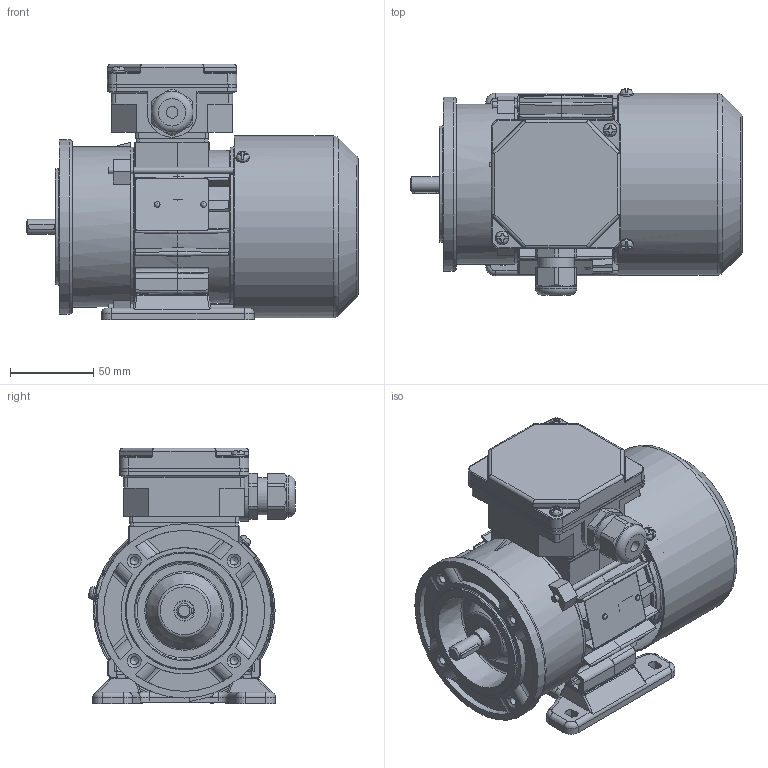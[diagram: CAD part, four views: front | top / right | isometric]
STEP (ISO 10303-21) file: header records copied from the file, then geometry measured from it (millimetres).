
FILE_DESCRIPTION( ( 'Unknown' ), '1' );
FILE_NAME( 'G:/Poczta Tk-1/STP/w.m.56/Sh56/SLh56-C1.stp', 'Unknown', ( 'K. Szlosek' ), ( 'BESEL S.A.' ), 'PSStep 17.0.49', 'Unknown', ' ' );
FILE_SCHEMA( ( 'AUTOMOTIVE_DESIGN { 1 0 10303 214 1 1 1 1 }' ) );
Length unit declared in the file: millimetre
Products named in the file (29): Assem1; K4-2320 Uszczelka nr 1 Sh71,80; K3-2193 Tarcza łożyskowa P Sg56-2..; K2-0860 Pokrywka skrzynki zaciskowej; Wpust A3x3x16; K3-2977 Osłona przewietrznika Sg56; K4-2820 Uszczelka nr 2 Sh71,80; Wkręt samogwintujący M4x8; Wkręt samogwintujący M4x16; K2-0879 Przewietrznik Sg56; Nitokołek A 2x6; K1-0484 Łapa Sg56-.. w. robocza; K3-9987 kadłub ze stojanem Sh56-C; K3-9990 wał Sh56-C; K1-0529 Tarcza kołnierzowa B14_1 SKg56-..1; K2-0859 Podstawa skrzynki 6-cio zaciskowej; Śruba ściągająca E_M4x85; Tabliczka znamionowa 32x44; Łożysko 6201; Dławnica M20x1,5
Assembly tree (44 placements, depth 2):
  Assem1
    K4-2320 Uszczelka nr 1 Sh71,80
    K3-2193 Tarcza łożyskowa P Sg56-2..
    K2-0860 Pokrywka skrzynki zaciskowej
    Wpust A3x3x16
    K3-2977 Osłona przewietrznika Sg56
    K4-2820 Uszczelka nr 2 Sh71,80
    Wkręt samogwintujący M4x8  x3
    Wkręt samogwintujący M4x16  x2
    K2-0879 Przewietrznik Sg56
    Nitokołek A 2x6  x2
    K1-0484 Łapa Sg56-.. w. robocza
    K3-9987 kadłub ze stojanem Sh56-C
    K3-9990 wał Sh56-C
    K1-0529 Tarcza kołnierzowa B14_1 SKg56-..1
    K2-0859 Podstawa skrzynki 6-cio zaciskowej
    Śruba ściągająca E_M4x85  x3
    Tabliczka znamionowa 32x44
    Łożysko 6201  x2
    Łożysko 6201  x2
    Łożysko 6201  x2
    Łożysko 6201  x2
    Łożysko 6201  x2
    Łożysko 6201  x2
    Łożysko 6201  x2
    Łożysko 6201  x2
    Łożysko 6201  x2
    Łożysko 6201  x2
    Dławnica M20x1,5
Bounding box: 200 x 124.54 x 154 mm (x, y, z)
Volume: 503173.1 mm3; surface area: 327452 mm2
Topology: 44 solids, 60 shells, 1881 faces, 5052 edges, 3243 vertices
Faces by surface type: plane 965, cylinder 562, torus 136, cone 108, bspline 76, sphere 34
Full cylindrical faces by diameter (mm): 2 x2, 2.4 x2, 3.242 x3, 3.7 x10, 4 x8, 4.5 x4, 4.8 x4, 4.917 x4, 5 x4, 5.8 x4, 7 x4, 8 x6, 9 x1, 10.9 x1, 11 x1, 11.5 x1, 11.8 x2, 12 x4, 12.4 x2, 15.5 x1, 16 x1, 16.1 x1, 17 x2, 18 x1, 18.376 x1, 18.38 x1, 18.52 x4, 20 x1, 22.3 x1, 24 x2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
Entity records: 78907 total; most frequent: CARTESIAN_POINT 22300, DIRECTION 8815, ORIENTED_EDGE 8696, EDGE_CURVE 4348, AXIS2_PLACEMENT_3D 3268, VERTEX_POINT 2930, LINE 2279, VECTOR 2279
